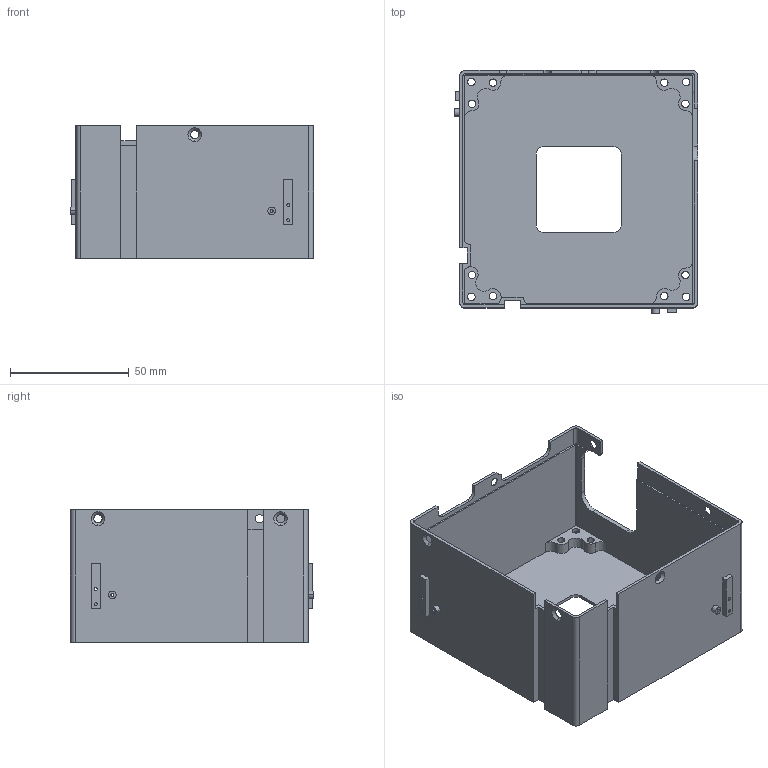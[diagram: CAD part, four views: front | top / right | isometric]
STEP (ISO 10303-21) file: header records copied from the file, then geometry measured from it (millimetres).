
FILE_DESCRIPTION (( 'STEP AP214' ), '1' );
FILE_NAME ('O1 MAI-400 Cover.STEP', '2023-02-26T05:32:23', ( '' ), ( '' ), 'SwSTEP 2.0', 'SolidWorks 2020', '' );
FILE_SCHEMA (( 'AUTOMOTIVE_DESIGN' ));
Length unit declared in the file: inch
Products named in the file (1): O1 MAI-400 Cover
Bounding box: 102.29 x 102.29 x 55.88 mm (x, y, z)
Volume: 49081.7 mm3; surface area: 59512.3 mm2
Topology: 1 solids, 1 shells, 184 faces, 523 edges, 349 vertices
Faces by surface type: cylinder 101, plane 71, cone 12
Entity records: 6605 total; most frequent: DIRECTION 1114, CARTESIAN_POINT 1075, ORIENTED_EDGE 1046, EDGE_CURVE 523, AXIS2_PLACEMENT_3D 412, VERTEX_POINT 349, LINE 290, VECTOR 290
